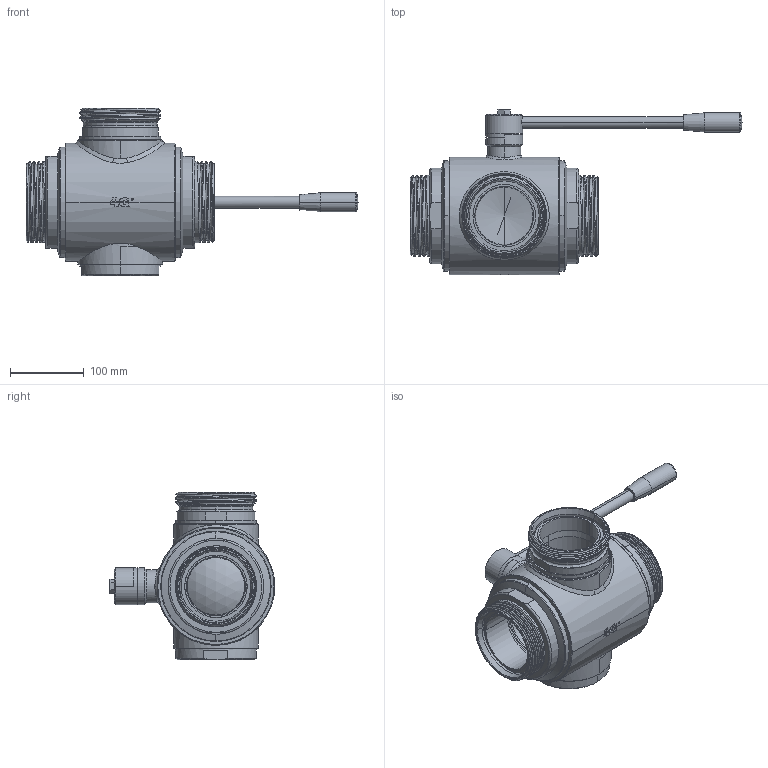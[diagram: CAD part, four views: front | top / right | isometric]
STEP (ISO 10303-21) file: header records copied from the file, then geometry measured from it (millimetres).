
FILE_DESCRIPTION((''),'2;1');
FILE_NAME('31012564810_SW0003','2024-12-17T15:57:04',('alfio.taboni'),('CDM Tecnoconsulting'),'CREO PARAMETRIC BY PTC INC, 2024063','CREO PARAMETRIC BY PTC INC, 2024063','');
FILE_SCHEMA(('CONFIG_CONTROL_DESIGN','SHAPE_APPEARANCE_LAYERS_GROUPS'));
Length unit declared in the file: millimetre
Products named in the file (1): 31012564810_SW0003
Bounding box: 451 x 225 x 228 mm (x, y, z)
Volume: 3086673.2 mm3; surface area: 445654.5 mm2
Topology: 1 solids, 1 shells, 990 faces, 2605 edges, 1650 vertices
Faces by surface type: plane 393, cylinder 220, cone 138, extrusion 111, bspline 77, torus 44, sphere 7
Entity records: 73302 total; most frequent: CARTESIAN_POINT 39572, ORIENTED_EDGE 5170, DIRECTION 4205, PRESENTATION_STYLE_ASSIGNMENT 2996, STYLED_ITEM 2642, CURVE_STYLE 2641, EDGE_CURVE 2585, VERTEX_POINT 1650
